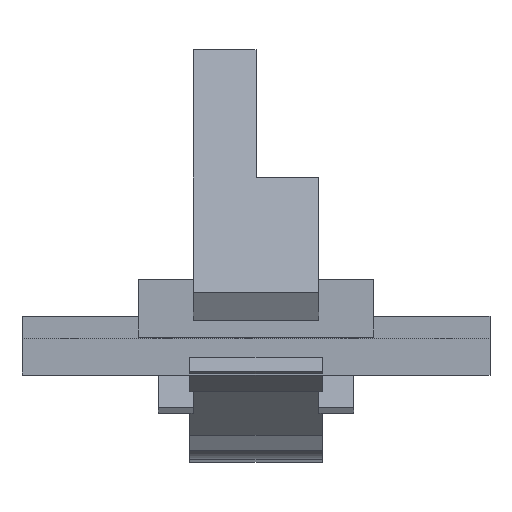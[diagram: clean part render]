
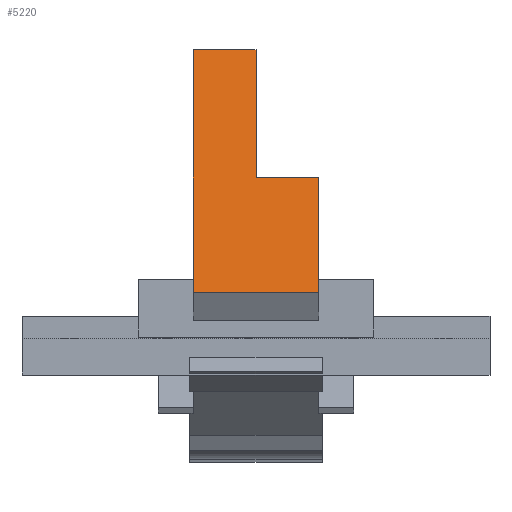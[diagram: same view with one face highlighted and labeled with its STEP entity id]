
A CAD part, left-side view. The second image highlights one B-rep face of the part: STEP entity #5220.
In plain terms, the highlighted planar face has unit normal (-0.976, 0, 0.216).
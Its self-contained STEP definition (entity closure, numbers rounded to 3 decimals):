
#1583 = PLANE('',#1584);
#1584 = AXIS2_PLACEMENT_3D('',#1585,#1586,#1587);
#1585 = CARTESIAN_POINT('',(-45.917,17.,12.433));
#1586 = DIRECTION('',(0.,1.,0.));
#1587 = DIRECTION('',(0.216,0.,0.976));
#1633 = PLANE('',#1634);
#1634 = AXIS2_PLACEMENT_3D('',#1635,#1636,#1637);
#1635 = CARTESIAN_POINT('',(-45.917,-17.,12.433));
#1636 = DIRECTION('',(0.,1.,0.));
#1637 = DIRECTION('',(0.216,0.,0.976));
#1758 = PLANE('',#1759);
#1759 = AXIS2_PLACEMENT_3D('',#1760,#1761,#1762);
#1760 = CARTESIAN_POINT('',(-45.917,-17.,12.433));
#1761 = DIRECTION('',(0.216,0.,0.976));
#1762 = DIRECTION('',(0.976,0.,-0.216));
#3567 = VERTEX_POINT('',#3568);
#3568 = CARTESIAN_POINT('',(-45.917,-17.,12.433));
#3589 = EDGE_CURVE('',#3567,#3590,#3592,.T.);
#3590 = VERTEX_POINT('',#3591);
#3591 = CARTESIAN_POINT('',(-38.991,-17.,43.675));
#3592 = SURFACE_CURVE('',#3593,(#3597,#3604),.PCURVE_S1.);
#3593 = LINE('',#3594,#3595);
#3594 = CARTESIAN_POINT('',(-45.917,-17.,12.433));
#3595 = VECTOR('',#3596,1.);
#3596 = DIRECTION('',(0.216,0.,0.976));
#3597 = PCURVE('',#1633,#3598);
#3598 = DEFINITIONAL_REPRESENTATION('',(#3599),#3603);
#3599 = LINE('',#3600,#3601);
#3600 = CARTESIAN_POINT('',(0.,0.));
#3601 = VECTOR('',#3602,1.);
#3602 = DIRECTION('',(1.,0.));
#3603 = ( GEOMETRIC_REPRESENTATION_CONTEXT(2) 
PARAMETRIC_REPRESENTATION_CONTEXT() REPRESENTATION_CONTEXT('2D SPACE',''
  ) );
#3604 = PCURVE('',#3605,#3610);
#3605 = PLANE('',#3606);
#3606 = AXIS2_PLACEMENT_3D('',#3607,#3608,#3609);
#3607 = CARTESIAN_POINT('',(-45.917,-17.,12.433));
#3608 = DIRECTION('',(0.976,0.,-0.216));
#3609 = DIRECTION('',(0.216,0.,0.976));
#3610 = DEFINITIONAL_REPRESENTATION('',(#3611),#3615);
#3611 = LINE('',#3612,#3613);
#3612 = CARTESIAN_POINT('',(0.,0.));
#3613 = VECTOR('',#3614,1.);
#3614 = DIRECTION('',(1.,0.));
#3615 = ( GEOMETRIC_REPRESENTATION_CONTEXT(2) 
PARAMETRIC_REPRESENTATION_CONTEXT() REPRESENTATION_CONTEXT('2D SPACE',''
  ) );
#3633 = PLANE('',#3634);
#3634 = AXIS2_PLACEMENT_3D('',#3635,#3636,#3637);
#3635 = CARTESIAN_POINT('',(-38.991,-17.,43.675));
#3636 = DIRECTION('',(0.216,0.,0.976));
#3637 = DIRECTION('',(0.976,0.,-0.216));
#3777 = VERTEX_POINT('',#3778);
#3778 = CARTESIAN_POINT('',(-45.917,17.,12.433));
#3799 = EDGE_CURVE('',#3800,#3777,#3802,.T.);
#3800 = VERTEX_POINT('',#3801);
#3801 = CARTESIAN_POINT('',(-31.308,17.,78.333));
#3802 = SURFACE_CURVE('',#3803,(#3807,#3814),.PCURVE_S1.);
#3803 = LINE('',#3804,#3805);
#3804 = CARTESIAN_POINT('',(-31.308,17.,78.333));
#3805 = VECTOR('',#3806,1.);
#3806 = DIRECTION('',(-0.216,0.,-0.976));
#3807 = PCURVE('',#1583,#3808);
#3808 = DEFINITIONAL_REPRESENTATION('',(#3809),#3813);
#3809 = LINE('',#3810,#3811);
#3810 = CARTESIAN_POINT('',(67.5,0.));
#3811 = VECTOR('',#3812,1.);
#3812 = DIRECTION('',(-1.,0.));
#3813 = ( GEOMETRIC_REPRESENTATION_CONTEXT(2) 
PARAMETRIC_REPRESENTATION_CONTEXT() REPRESENTATION_CONTEXT('2D SPACE',''
  ) );
#3814 = PCURVE('',#3605,#3815);
#3815 = DEFINITIONAL_REPRESENTATION('',(#3816),#3820);
#3816 = LINE('',#3817,#3818);
#3817 = CARTESIAN_POINT('',(67.5,-34.));
#3818 = VECTOR('',#3819,1.);
#3819 = DIRECTION('',(-1.,0.));
#3820 = ( GEOMETRIC_REPRESENTATION_CONTEXT(2) 
PARAMETRIC_REPRESENTATION_CONTEXT() REPRESENTATION_CONTEXT('2D SPACE',''
  ) );
#3838 = PLANE('',#3839);
#3839 = AXIS2_PLACEMENT_3D('',#3840,#3841,#3842);
#3840 = CARTESIAN_POINT('',(-31.308,0.,78.333));
#3841 = DIRECTION('',(0.216,0.,0.976));
#3842 = DIRECTION('',(0.976,0.,-0.216));
#4105 = EDGE_CURVE('',#3567,#3777,#4106,.T.);
#4106 = SURFACE_CURVE('',#4107,(#4111,#4118),.PCURVE_S1.);
#4107 = LINE('',#4108,#4109);
#4108 = CARTESIAN_POINT('',(-45.917,-17.,12.433));
#4109 = VECTOR('',#4110,1.);
#4110 = DIRECTION('',(0.,1.,0.));
#4111 = PCURVE('',#1758,#4112);
#4112 = DEFINITIONAL_REPRESENTATION('',(#4113),#4117);
#4113 = LINE('',#4114,#4115);
#4114 = CARTESIAN_POINT('',(0.,0.));
#4115 = VECTOR('',#4116,1.);
#4116 = DIRECTION('',(0.,1.));
#4117 = ( GEOMETRIC_REPRESENTATION_CONTEXT(2) 
PARAMETRIC_REPRESENTATION_CONTEXT() REPRESENTATION_CONTEXT('2D SPACE',''
  ) );
#4118 = PCURVE('',#3605,#4119);
#4119 = DEFINITIONAL_REPRESENTATION('',(#4120),#4124);
#4120 = LINE('',#4121,#4122);
#4121 = CARTESIAN_POINT('',(0.,0.));
#4122 = VECTOR('',#4123,1.);
#4123 = DIRECTION('',(0.,-1.));
#4124 = ( GEOMETRIC_REPRESENTATION_CONTEXT(2) 
PARAMETRIC_REPRESENTATION_CONTEXT() REPRESENTATION_CONTEXT('2D SPACE',''
  ) );
#5162 = PLANE('',#5163);
#5163 = AXIS2_PLACEMENT_3D('',#5164,#5165,#5166);
#5164 = CARTESIAN_POINT('',(-38.994,0.,43.665));
#5165 = DIRECTION('',(0.,1.,0.));
#5166 = DIRECTION('',(0.216,0.,0.976));
#5177 = EDGE_CURVE('',#3590,#5178,#5180,.T.);
#5178 = VERTEX_POINT('',#5179);
#5179 = CARTESIAN_POINT('',(-38.991,0.,43.675));
#5180 = SURFACE_CURVE('',#5181,(#5185,#5192),.PCURVE_S1.);
#5181 = LINE('',#5182,#5183);
#5182 = CARTESIAN_POINT('',(-38.991,-17.,43.675));
#5183 = VECTOR('',#5184,1.);
#5184 = DIRECTION('',(0.,1.,0.));
#5185 = PCURVE('',#3633,#5186);
#5186 = DEFINITIONAL_REPRESENTATION('',(#5187),#5191);
#5187 = LINE('',#5188,#5189);
#5188 = CARTESIAN_POINT('',(0.,0.));
#5189 = VECTOR('',#5190,1.);
#5190 = DIRECTION('',(0.,1.));
#5191 = ( GEOMETRIC_REPRESENTATION_CONTEXT(2) 
PARAMETRIC_REPRESENTATION_CONTEXT() REPRESENTATION_CONTEXT('2D SPACE',''
  ) );
#5192 = PCURVE('',#3605,#5193);
#5193 = DEFINITIONAL_REPRESENTATION('',(#5194),#5198);
#5194 = LINE('',#5195,#5196);
#5195 = CARTESIAN_POINT('',(32.,0.));
#5196 = VECTOR('',#5197,1.);
#5197 = DIRECTION('',(0.,-1.));
#5198 = ( GEOMETRIC_REPRESENTATION_CONTEXT(2) 
PARAMETRIC_REPRESENTATION_CONTEXT() REPRESENTATION_CONTEXT('2D SPACE',''
  ) );
#5220 = ADVANCED_FACE('',(#5221),#3605,.F.);
#5221 = FACE_BOUND('',#5222,.F.);
#5222 = EDGE_LOOP('',(#5223,#5224,#5225,#5226,#5227,#5250));
#5223 = ORIENTED_EDGE('',*,*,#5177,.F.);
#5224 = ORIENTED_EDGE('',*,*,#3589,.F.);
#5225 = ORIENTED_EDGE('',*,*,#4105,.T.);
#5226 = ORIENTED_EDGE('',*,*,#3799,.F.);
#5227 = ORIENTED_EDGE('',*,*,#5228,.F.);
#5228 = EDGE_CURVE('',#5229,#3800,#5231,.T.);
#5229 = VERTEX_POINT('',#5230);
#5230 = CARTESIAN_POINT('',(-31.308,0.,78.333));
#5231 = SURFACE_CURVE('',#5232,(#5236,#5243),.PCURVE_S1.);
#5232 = LINE('',#5233,#5234);
#5233 = CARTESIAN_POINT('',(-31.308,0.,78.333));
#5234 = VECTOR('',#5235,1.);
#5235 = DIRECTION('',(0.,1.,0.));
#5236 = PCURVE('',#3605,#5237);
#5237 = DEFINITIONAL_REPRESENTATION('',(#5238),#5242);
#5238 = LINE('',#5239,#5240);
#5239 = CARTESIAN_POINT('',(67.5,-17.));
#5240 = VECTOR('',#5241,1.);
#5241 = DIRECTION('',(0.,-1.));
#5242 = ( GEOMETRIC_REPRESENTATION_CONTEXT(2) 
PARAMETRIC_REPRESENTATION_CONTEXT() REPRESENTATION_CONTEXT('2D SPACE',''
  ) );
#5243 = PCURVE('',#3838,#5244);
#5244 = DEFINITIONAL_REPRESENTATION('',(#5245),#5249);
#5245 = LINE('',#5246,#5247);
#5246 = CARTESIAN_POINT('',(0.,0.));
#5247 = VECTOR('',#5248,1.);
#5248 = DIRECTION('',(0.,1.));
#5249 = ( GEOMETRIC_REPRESENTATION_CONTEXT(2) 
PARAMETRIC_REPRESENTATION_CONTEXT() REPRESENTATION_CONTEXT('2D SPACE',''
  ) );
#5250 = ORIENTED_EDGE('',*,*,#5251,.F.);
#5251 = EDGE_CURVE('',#5178,#5229,#5252,.T.);
#5252 = SURFACE_CURVE('',#5253,(#5257,#5264),.PCURVE_S1.);
#5253 = LINE('',#5254,#5255);
#5254 = CARTESIAN_POINT('',(-38.994,0.,43.665));
#5255 = VECTOR('',#5256,1.);
#5256 = DIRECTION('',(0.216,0.,0.976));
#5257 = PCURVE('',#3605,#5258);
#5258 = DEFINITIONAL_REPRESENTATION('',(#5259),#5263);
#5259 = LINE('',#5260,#5261);
#5260 = CARTESIAN_POINT('',(31.99,-17.));
#5261 = VECTOR('',#5262,1.);
#5262 = DIRECTION('',(1.,0.));
#5263 = ( GEOMETRIC_REPRESENTATION_CONTEXT(2) 
PARAMETRIC_REPRESENTATION_CONTEXT() REPRESENTATION_CONTEXT('2D SPACE',''
  ) );
#5264 = PCURVE('',#5162,#5265);
#5265 = DEFINITIONAL_REPRESENTATION('',(#5266),#5270);
#5266 = LINE('',#5267,#5268);
#5267 = CARTESIAN_POINT('',(0.,0.));
#5268 = VECTOR('',#5269,1.);
#5269 = DIRECTION('',(1.,0.));
#5270 = ( GEOMETRIC_REPRESENTATION_CONTEXT(2) 
PARAMETRIC_REPRESENTATION_CONTEXT() REPRESENTATION_CONTEXT('2D SPACE',''
  ) );
